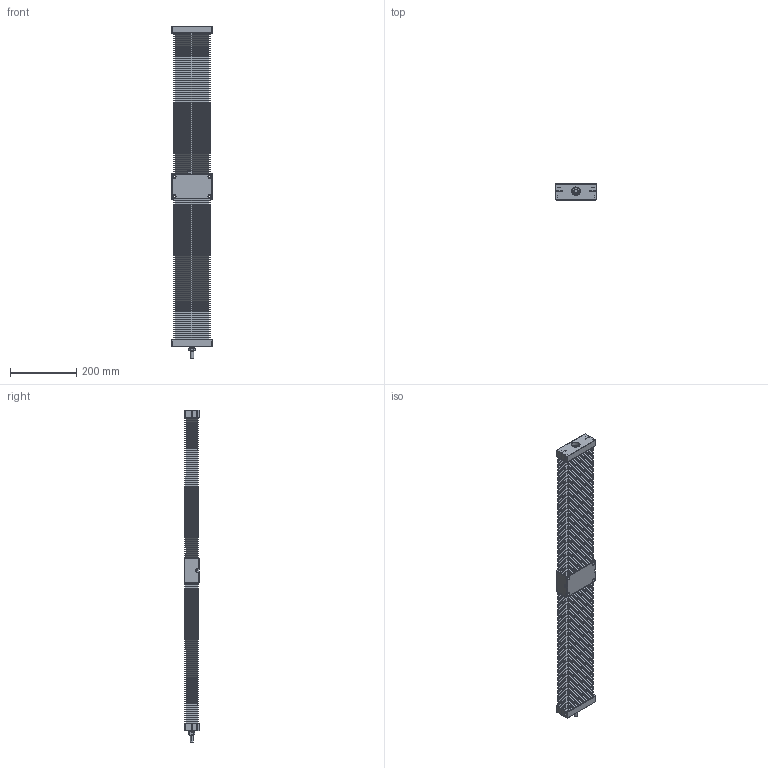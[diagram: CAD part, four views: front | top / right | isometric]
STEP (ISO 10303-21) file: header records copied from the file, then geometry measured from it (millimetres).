
FILE_DESCRIPTION (( 'STEP AP214' ), '1' );
FILE_NAME ('TKC1610B-550H0C-Ä£×é.step', '2025-08-25T08:38:49', ( '' ), ( '' ), 'SwSTEP 2.0', 'SolidWorks 2024', '' );
FILE_SCHEMA (( 'AUTOMOTIVE_DESIGN' ));
Length unit declared in the file: millimetre
Products named in the file (4): TKC1610B-550H0C-模组; TKC16-550-01; TKC16-02; TKC16-550-03
Assembly tree (4 placements, depth 2):
  TKC1610B-550H0C-模组
    TKC16-02
    TKC16-550-01
    TKC16-550-03  x2
Bounding box: 122 x 48 x 1002.5 mm (x, y, z)
Volume: 2766444.4 mm3; surface area: 978174 mm2
Topology: 10 solids, 14 shells, 2548 faces, 5592 edges, 3111 vertices
Faces by surface type: plane 2000, cylinder 473, cone 36, torus 28, bspline 11
Entity records: 58823 total; most frequent: CARTESIAN_POINT 22262, ORIENTED_EDGE 7608, DIRECTION 7096, EDGE_CURVE 3804, VECTOR 2760, LINE 2760, VERTEX_POINT 2223, AXIS2_PLACEMENT_3D 2168
